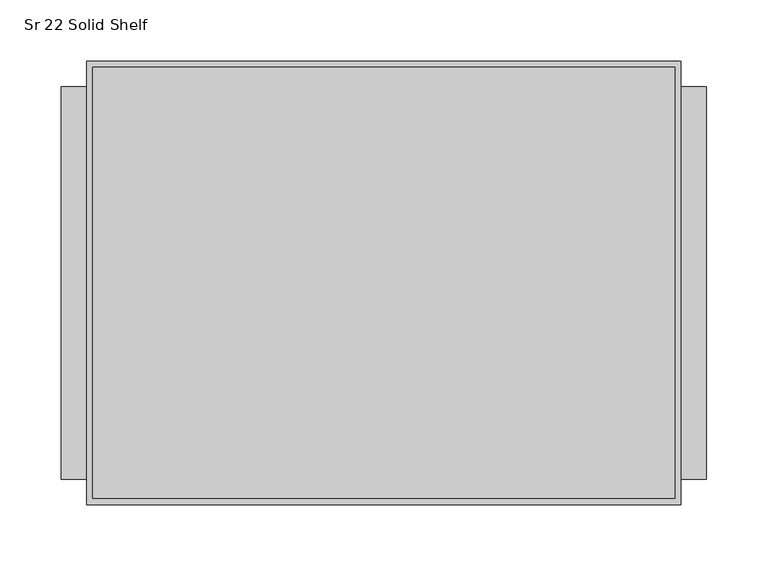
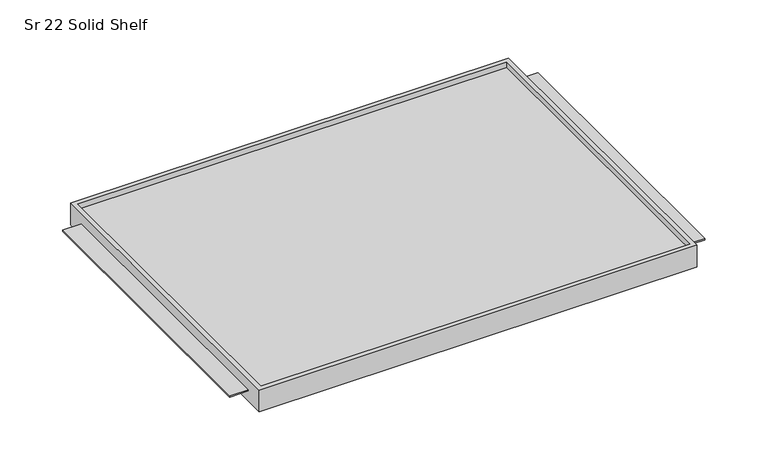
"""IFC4 building model written with IfcOpenShell, lengths in millimetres: furniture geometry, HermanMiller_Carts_CT521_CartShelf : Sr 22 Solid Shelf."""

from ifc_helpers import new_model, si_unit, frame, origin, place, context, project, spatial, polyline, outline, extrude, faceted_brep, source, transform, mapped, element, save


def sr_22_solid_shelf_ceaeb301(model_context):
    return source(origin(), model_context, "Body", "SolidModel", [
        extrude(outline(polyline([(-299.9701517, -185.7375), (-320.6076517, -185.7375), (-320.6076517, 134.9375), (-299.9701517, 134.9375), (-299.9701517, -185.7375)])), frame((0.0, 0.0, 1558.1376346), z_axis=(0.0, 0.0, 1.0), x_axis=(1.0, 0.0, 0.0)), (0.0, 0.0, 1.0), 1.5875),
        extrude(outline(polyline([(206.4423483, 134.9375), (206.4423483, -185.7375), (180.7248483, -185.7375), (180.7248483, 134.9375), (206.4423483, 134.9375)])), frame((0.0, 0.0, 1558.1376346), z_axis=(0.0, 0.0, 1.0), x_axis=(1.0, 0.0, 0.0)), (0.0, 0.0, 1.0), 1.5875),
        faceted_brep([(185.8048483, -206.375, 1571.6313846), (-299.9701517, -206.375, 1571.6313846), (-299.9701517, -206.375, 1546.2313846), (185.8048483, -206.375, 1546.2313846), (185.8048483, 155.575, 1571.6313846), (185.8048483, 155.575, 1546.2313846), (-299.9701517, 155.575, 1546.2313846), (-299.9701517, 155.575, 1571.6313846), (-294.8901517, 150.495, 1571.6313846), (180.7248483, 150.495, 1571.6313846), (180.7248483, -201.295, 1571.6313846), (-294.8901517, -201.295, 1571.6313846), (180.7248483, 150.495, 1565.2813846), (-294.8901517, 150.495, 1565.2813846), (-294.8901517, -201.295, 1565.2813846), (180.7248483, -201.295, 1565.2813846)], [[[0, 1, 2, 3]], [[4, 5, 6, 7]], [[1, 0, 4, 7], [8, 9, 10, 11]], [[2, 1, 7, 6]], [[3, 2, 6, 5]], [[0, 3, 5, 4]], [[12, 13, 14, 15]], [[13, 12, 9, 8]], [[14, 13, 8, 11]], [[15, 14, 11, 10]], [[12, 15, 10, 9]]]),
    ])


if __name__ == "__main__":
    model = new_model("IFC4")
    model_context = context("Model", 3, world=origin())
    ifc_project = project(units=[si_unit("LENGTHUNIT", "METRE", prefix="MILLI")], contexts=[model_context])
    site = spatial("IfcSite", under=ifc_project)
    building = spatial("IfcBuilding", under=site)
    placement = place(None, origin())
    sr_22_solid_shelf_shape = sr_22_solid_shelf_ceaeb301(model_context)
    element("IfcFurniture", 1, ObjectType="HermanMiller_Carts_CT521_CartShelf : Sr 22 Solid Shelf", at=placement, inside=building, context=model_context, shape_type="MappedRepresentation", body=[
        mapped(sr_22_solid_shelf_shape, transform((0.0, 0.0, 0.0), x_axis=(1.0, 0.0, 0.0), y_axis=(0.0, 1.0, 0.0), z_axis=(0.0, 0.0, 1.0))),
    ])
    save(model, "model.ifc")
